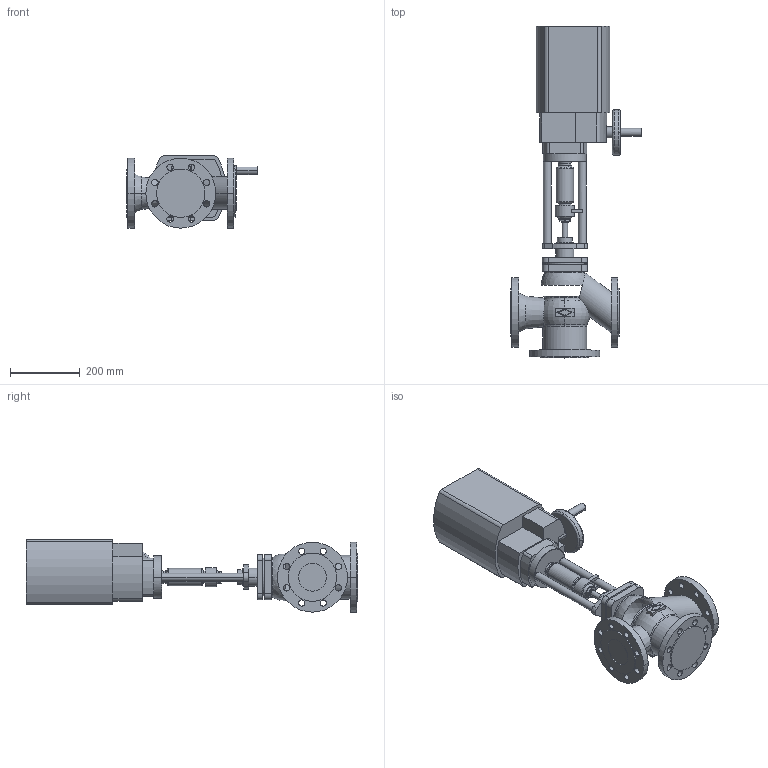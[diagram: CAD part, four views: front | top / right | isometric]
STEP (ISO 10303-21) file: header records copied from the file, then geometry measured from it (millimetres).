
FILE_DESCRIPTION( ( '' ), '1' );
FILE_NAME( 'F:/DE-SHS/TB/OR/04-Sonstiges/daten/files_3d/450-PREMIO-Plus-2G/c000006522.stp', '2017-02-22T12:51:07', ( '' ), ( '' ), ' ', ' ', ' ' );
FILE_SCHEMA( ( 'CONFIG_CONTROL_DESIGN' ) );
Length unit declared in the file: millimetre
Products named in the file (2): 1; 2
Bounding box: 374.05 x 949 x 206.8 mm (x, y, z)
Volume: 17930571.9 mm3; surface area: 889298.3 mm2
Topology: 2 solids, 2 shells, 275 faces, 711 edges, 464 vertices
Faces by surface type: cylinder 134, plane 103, torus 24, cone 12, sphere 2
Entity records: 9142 total; most frequent: CARTESIAN_POINT 1934, DIRECTION 1614, ORIENTED_EDGE 1414, EDGE_CURVE 707, AXIS2_PLACEMENT_3D 656, VERTEX_POINT 464, CIRCLE 377, EDGE_LOOP 351
